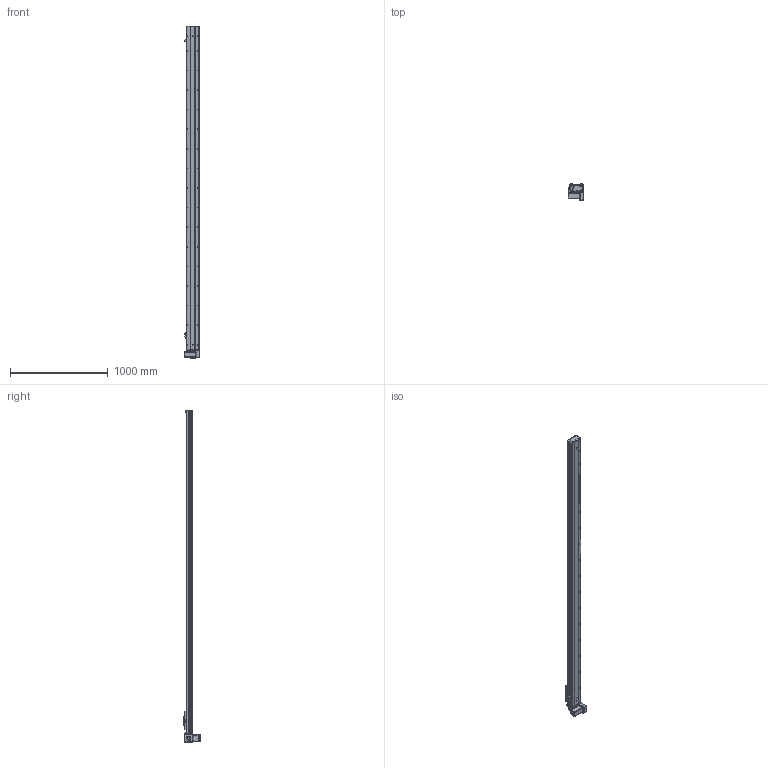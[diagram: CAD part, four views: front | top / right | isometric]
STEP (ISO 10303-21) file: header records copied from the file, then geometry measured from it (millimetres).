
FILE_DESCRIPTION (( 'STEP AP203' ), '1' );
FILE_NAME ('Y135CB-D90-S3000-BM-P400W.STEP', '2020-02-19T02:41:39', ( '微软用户' ), ( '微软中国' ), 'SwSTEP 2.0', 'SolidWorks 2017', '' );
FILE_SCHEMA (( 'CONFIG_CONTROL_DESIGN' ));
Length unit declared in the file: millimetre
Products named in the file (18): Y135CB-耜裔; Y135CB-D90-S3000-BM-P400W; 135CB--詩湍-CE; 135CB---遴掛极.-; Y100-135俋离換覜ん--; 35CB---喘謫眊楊擘啣; Y135C-陔俋离換覜結え-; 0B-埴倛裔啣; 5C--俋欶; 0B-源倛裔啣; C-雄赽釱--; 0B-萇儂楊擘啣; Y10B--々湍喘謫眊--666; san松下电机400不带刹车----; 00B-俋欶BM--; 5CB --掛极耜裔啣-; Y10B-耜蚾蟀諉啣----; C-詩湍揤踡え-陔
Assembly tree (21 placements, depth 2):
  Y135CB-D90-S3000-BM-P400W
    Y135CB-耜裔
    135CB---遴掛极.-
    35CB---喘謫眊楊擘啣
    0B-埴倛裔啣
    0B-源倛裔啣
    0B-萇儂楊擘啣
    san松下电机400不带刹车----
    5CB --掛极耜裔啣-  x2
    C-詩湍揤踡え-陔  x2
    135CB--詩湍-CE
    Y100-135俋离換覜ん--  x3
    Y135C-陔俋离換覜結え-
    5C--俋欶
    C-雄赽釱--
    Y10B--々湍喘謫眊--666
    00B-俋欶BM--
    Y10B-耜蚾蟀諉啣----
Bounding box: 157 x 163.3 x 3388 mm (x, y, z)
Volume: 9580275.2 mm3; surface area: 3801264.5 mm2
Topology: 21 solids, 21 shells, 985 faces, 2707 edges, 1794 vertices
Faces by surface type: cylinder 513, plane 456, cone 16
Entity records: 31369 total; most frequent: CARTESIAN_POINT 5252, DIRECTION 5215, ORIENTED_EDGE 4890, EDGE_CURVE 2445, AXIS2_PLACEMENT_3D 1917, VERTEX_POINT 1622, LINE 1381, VECTOR 1381
